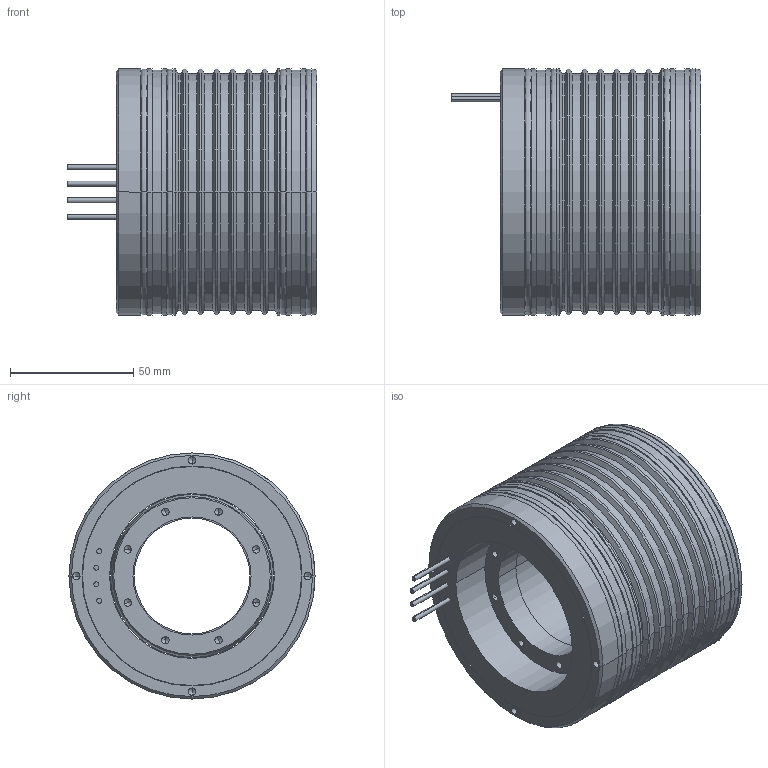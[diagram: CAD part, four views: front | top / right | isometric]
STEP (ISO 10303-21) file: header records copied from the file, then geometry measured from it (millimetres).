
FILE_DESCRIPTION((''),'2;1');
FILE_NAME('TK093-50','2017-10-26T',('stefanos'),(''),'CREO PARAMETRIC BY PTC INC, 2015480','CREO PARAMETRIC BY PTC INC, 2015480','');
FILE_SCHEMA(('CONFIG_CONTROL_DESIGN'));
Length unit declared in the file: millimetre
Products named in the file (1): TK093-50
Bounding box: 101.5 x 100 x 100 mm (x, y, z)
Volume: 425235.8 mm3; surface area: 166136.3 mm2
Topology: 9 solids, 9 shells, 293 faces, 626 edges, 350 vertices
Faces by surface type: cylinder 136, cone 88, plane 37, torus 16, revolution 16
Entity records: 9140 total; most frequent: CARTESIAN_POINT 2781, DIRECTION 1454, ORIENTED_EDGE 1172, AXIS2_PLACEMENT_3D 607, EDGE_CURVE 586, VERTEX_POINT 350, EDGE_LOOP 350, CIRCLE 330
